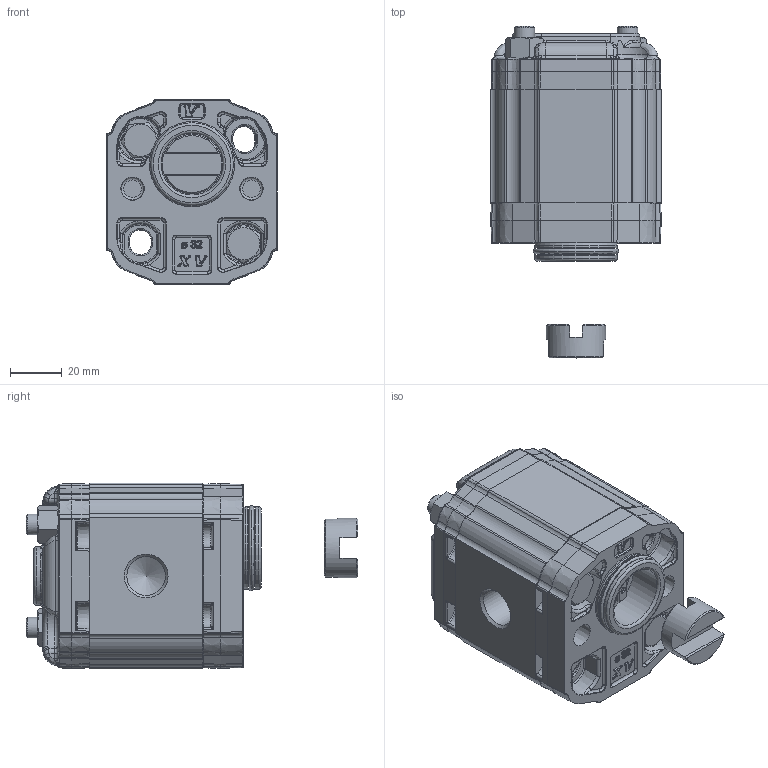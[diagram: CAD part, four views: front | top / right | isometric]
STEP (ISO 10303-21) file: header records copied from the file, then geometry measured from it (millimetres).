
FILE_DESCRIPTION(/* description */ ('Unknown'),/* implementation_level */ '2;1');
FILE_NAME(/* name */ 'X1U1832CBBA',/* time_stamp */ '2026-05-26T18:49:09+02:00',/* author */ ('Unknown'),/* organization */ ('Unknown'),/* preprocessor_version */ 'ST-DEVELOPER v16.7',/* originating_system */ 'Solid Edge',/* authorisation */ 'Unknown');
FILE_SCHEMA (('AUTOMOTIVE_DESIGN {1 0 10303 214 3 1 1}'));
Products named in the file (5): X1U1832CBBA; X1U32; 1C; X1BBH44; XU161-A
Assembly tree (4 placements, depth 2):
  X1U1832CBBA
    X1U32
    1C
    X1BBH44
    XU161-A
Bounding box: 66 x 128.49 x 72 mm (x, y, z)
Volume: 299840.6 mm3; surface area: 64026.6 mm2
Topology: 5 solids, 6 shells, 2571 faces, 6088 edges, 3567 vertices
Faces by surface type: cylinder 753, bspline 645, plane 567, torus 272, cone 249, sphere 85
Full cylindrical faces by diameter (mm): 1.5 x1, 3.65 x2, 8 x6, 8.5 x3, 9 x2, 10.5 x2, 11.965 x1, 12 x1, 13.107 x1, 14.692 x1, 14.95 x2, 17.135 x1, 19.02 x2, 23 x1, 24 x1, 29.4 x2, 32 x2, 32.96 x1
Entity records: 138657 total; most frequent: CARTESIAN_POINT 65595, ORIENTED_EDGE 11764, DIRECTION 11024, EDGE_CURVE 5882, AXIS2_PLACEMENT_3D 4548, VERTEX_POINT 3518, FACE_BOUND 2788, EDGE_LOOP 2785
